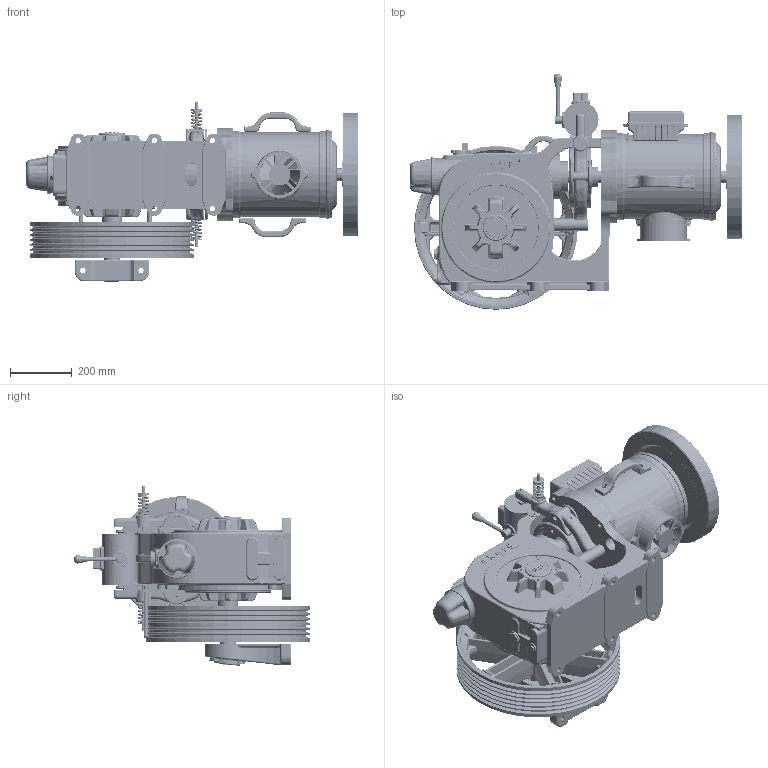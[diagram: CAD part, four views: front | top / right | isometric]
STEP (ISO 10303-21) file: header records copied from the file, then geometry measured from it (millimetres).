
FILE_DESCRIPTION (( 'STEP AP214' ), '1' );
FILE_NAME ('STPC10305021.STEP', '2026-01-22T06:32:20', ( '' ), ( '' ), 'SwSTEP 2.0', 'SolidWorks 2023', '' );
FILE_SCHEMA (( 'AUTOMOTIVE_DESIGN' ));
Length unit declared in the file: millimetre
Products named in the file (1): STPC10305021
Bounding box: 1074.1 x 761.71 x 581.08 mm (x, y, z)
Volume: 77216771 mm3; surface area: 4830821.9 mm2
Topology: 50 solids, 69 shells, 6947 faces, 16592 edges, 9757 vertices
Faces by surface type: bspline 2445, cylinder 1858, plane 1389, torus 637, cone 403, sphere 215
Entity records: 294681 total; most frequent: CARTESIAN_POINT 155271, ORIENTED_EDGE 32714, DIRECTION 24413, EDGE_CURVE 16357, AXIS2_PLACEMENT_3D 9969, VERTEX_POINT 9723, EDGE_LOOP 7428, FACE_OUTER_BOUND 6947
